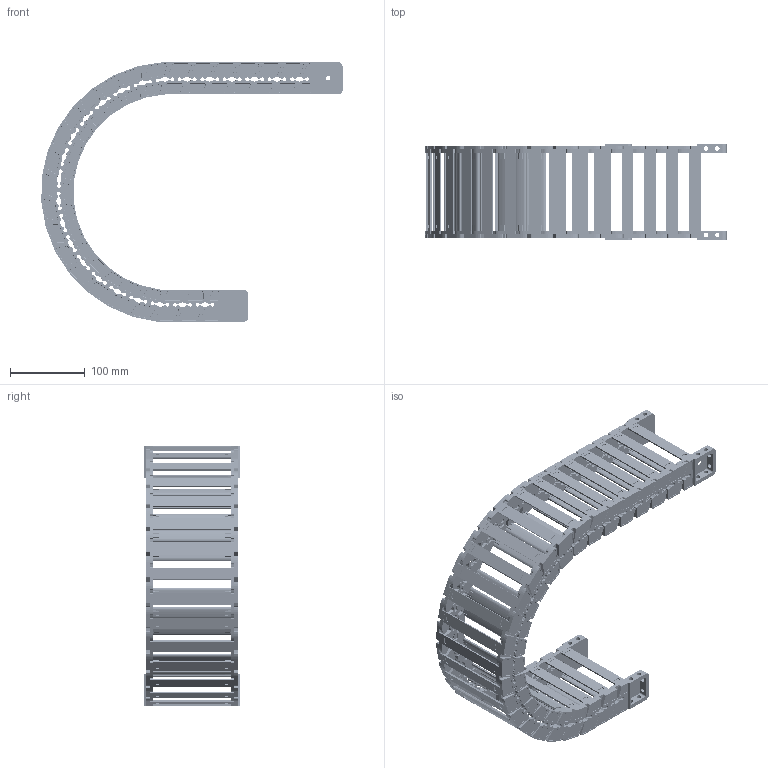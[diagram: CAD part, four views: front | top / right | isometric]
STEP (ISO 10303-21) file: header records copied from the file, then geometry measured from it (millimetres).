
FILE_DESCRIPTION((''),'2;1');
FILE_NAME('JY-35X103-R150_ASM','2025-01-06T09:05:18',('admin'),(''),'CREO PARAMETRIC BY PTC INC, 2021023','CREO PARAMETRIC BY PTC INC, 2021023','');
FILE_SCHEMA(('CONFIG_CONTROL_DESIGN'));
Length unit declared in the file: millimetre
Products named in the file (11): 35XL-L; YP; 35XL-R; ASM0001_ASM; 35-LTT-A-L; 35-LTT-A-R; 35XL-LTT-A_ASM; 35-LTT-B-L; 35-LTT-B-R; 35XL-LTT-B_ASM; JY-35X103-R150_ASM
Assembly tree (37 placements, depth 3):
  JY-35X103-R150_ASM
    ASM0001_ASM  x23
      35XL-L
      YP
      35XL-R
    35XL-LTT-A_ASM
      35-LTT-A-L
      YP  x2
      35-LTT-A-R
    35XL-LTT-B_ASM
      35-LTT-B-L
      YP  x2
      35-LTT-B-R
Bounding box: 402.36 x 127.5 x 347.06 mm (x, y, z)
Volume: 799534.1 mm3; surface area: 485195.7 mm2
Topology: 100 solids, 100 shells, 8160 faces, 24472 edges, 16520 vertices
Faces by surface type: plane 4618, cylinder 2678, cone 528, extrusion 192, bspline 144
Entity records: 27906 total; most frequent: CARTESIAN_POINT 6170, ORIENTED_EDGE 4640, DIRECTION 4369, EDGE_CURVE 2320, VERTEX_POINT 1568, AXIS2_PLACEMENT_3D 1476, VECTOR 1417, LINE 1401
